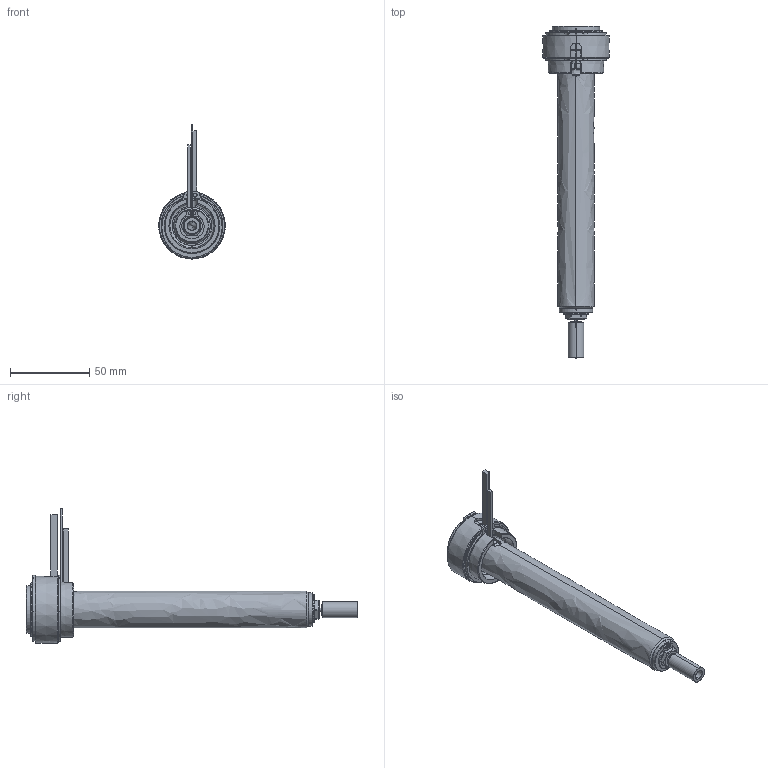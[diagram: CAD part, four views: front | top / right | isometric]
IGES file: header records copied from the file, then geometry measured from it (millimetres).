
Start section: SolidWorks IGES file using analytic representation for surfaces
Global section: file name: C:\Users\luca.EMPAD\Desktop\TEM\UGBE3504-M-A-P-5 [Ød-1.0 P-20 ØC-7.0].IGS; native system: SolidWorks 2012; preprocessor: SolidWorks 2012; author: luca; date: 120330.140606; units: millimetre
Bounding box: 42 x 209 x 84.4 mm (x, y, z)
Surface area: 35929.6 mm2 (no closed solid volume)
Topology: 0 solids, 0 shells, 179 faces, 3222 edges, 3222 vertices
Faces by surface type: revolution 112, bspline 67
